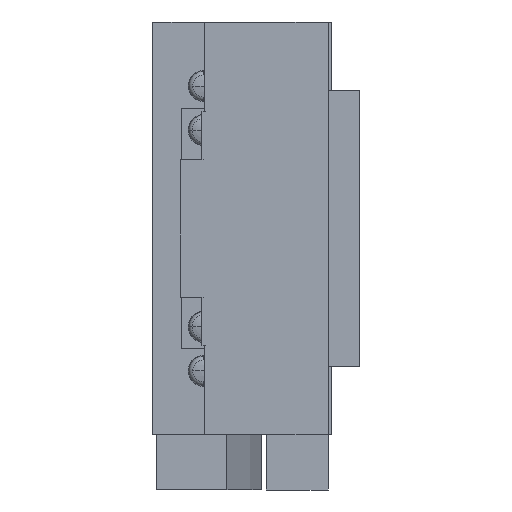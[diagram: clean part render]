
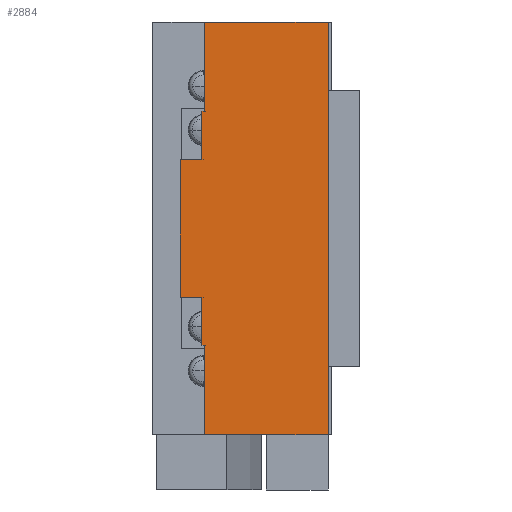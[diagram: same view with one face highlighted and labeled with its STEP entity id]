
A CAD part, left-side view. The second image highlights one B-rep face of the part: STEP entity #2884.
In plain terms, the highlighted planar face has unit normal (-1, 0, 0).
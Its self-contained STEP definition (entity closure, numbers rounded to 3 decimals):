
#40 = CARTESIAN_POINT ( 'NONE',  ( -38., 7.851, -10. ) ) ;
#59 = DIRECTION ( 'NONE',  ( 0., -1., 0. ) ) ;
#136 = CARTESIAN_POINT ( 'NONE',  ( -38., 11., 30. ) ) ;
#202 = LINE ( 'NONE', #205, #1760 ) ;
#205 = CARTESIAN_POINT ( 'NONE',  ( -38., 7.517, 17. ) ) ;
#206 = DIRECTION ( 'NONE',  ( 0., 0., 1. ) ) ;
#226 = LINE ( 'NONE', #136, #1848 ) ;
#240 = DIRECTION ( 'NONE',  ( 0., 0., -1. ) ) ;
#331 = ORIENTED_EDGE ( 'NONE', *, *, #6847, .T. ) ;
#360 = CARTESIAN_POINT ( 'NONE',  ( -38., 11., -10. ) ) ;
#376 = ORIENTED_EDGE ( 'NONE', *, *, #6839, .F. ) ;
#410 = CARTESIAN_POINT ( 'NONE',  ( -38., 7.851, 17. ) ) ;
#421 = ORIENTED_EDGE ( 'NONE', *, *, #6850, .T. ) ;
#441 = CARTESIAN_POINT ( 'NONE',  ( -38., 7.851, 10. ) ) ;
#765 = ORIENTED_EDGE ( 'NONE', *, *, #6903, .F. ) ;
#771 = VERTEX_POINT ( 'NONE', #410 ) ;
#815 = VERTEX_POINT ( 'NONE', #441 ) ;
#836 = VERTEX_POINT ( 'NONE', #360 ) ;
#842 = ORIENTED_EDGE ( 'NONE', *, *, #6729, .T. ) ;
#852 = ORIENTED_EDGE ( 'NONE', *, *, #6667, .T. ) ;
#858 = VERTEX_POINT ( 'NONE', #5747 ) ;
#859 = VERTEX_POINT ( 'NONE', #5366 ) ;
#862 = VERTEX_POINT ( 'NONE', #5650 ) ;
#863 = VERTEX_POINT ( 'NONE', #5756 ) ;
#865 = ORIENTED_EDGE ( 'NONE', *, *, #6889, .F. ) ;
#873 = VERTEX_POINT ( 'NONE', #5307 ) ;
#876 = ORIENTED_EDGE ( 'NONE', *, *, #6723, .T. ) ;
#887 = ORIENTED_EDGE ( 'NONE', *, *, #6873, .F. ) ;
#889 = VERTEX_POINT ( 'NONE', #5511 ) ;
#919 = VERTEX_POINT ( 'NONE', #5550 ) ;
#936 = ORIENTED_EDGE ( 'NONE', *, *, #6817, .F. ) ;
#942 = VERTEX_POINT ( 'NONE', #5620 ) ;
#943 = ORIENTED_EDGE ( 'NONE', *, *, #6746, .F. ) ;
#947 = ORIENTED_EDGE ( 'NONE', *, *, #6820, .T. ) ;
#957 = VERTEX_POINT ( 'NONE', #5478 ) ;
#1560 = AXIS2_PLACEMENT_3D ( 'NONE', #7174, #7124, #7014 ) ;
#1626 = VECTOR ( 'NONE', #3636, 1000. ) ;
#1729 = VECTOR ( 'NONE', #3754, 1000. ) ;
#1734 = VECTOR ( 'NONE', #240, 1000. ) ;
#1760 = VECTOR ( 'NONE', #206, 1000. ) ;
#1848 = VECTOR ( 'NONE', #59, 1000. ) ;
#1851 = VECTOR ( 'NONE', #2896, 1000. ) ;
#1873 = VECTOR ( 'NONE', #4394, 1000. ) ;
#1876 = VECTOR ( 'NONE', #4493, 1000. ) ;
#1885 = VECTOR ( 'NONE', #4385, 1000. ) ;
#1906 = VECTOR ( 'NONE', #4436, 1000. ) ;
#1919 = VECTOR ( 'NONE', #6157, 1000. ) ;
#1947 = VECTOR ( 'NONE', #6016, 1000. ) ;
#2003 = LINE ( 'NONE', #40, #1734 ) ;
#2363 = EDGE_LOOP ( 'NONE', ( #331, #947, #887, #936, #943, #376, #765, #865, #852, #421, #842, #876 ) ) ;
#2884 = ADVANCED_FACE ( 'NONE', ( #7179 ), #7074, .F. ) ;
#2896 = DIRECTION ( 'NONE',  ( 0., -1., 0. ) ) ;
#2901 = LINE ( 'NONE', #2902, #1851 ) ;
#2902 = CARTESIAN_POINT ( 'NONE',  ( -38., 11., -30. ) ) ;
#3564 = LINE ( 'NONE', #3945, #1729 ) ;
#3635 = CARTESIAN_POINT ( 'NONE',  ( -38., 11., 30. ) ) ;
#3636 = DIRECTION ( 'NONE',  ( 0., 0., -1. ) ) ;
#3754 = DIRECTION ( 'NONE',  ( 0., -1., 0. ) ) ;
#3780 = LINE ( 'NONE', #3635, #1626 ) ;
#3945 = CARTESIAN_POINT ( 'NONE',  ( -38., 7.851, -17. ) ) ;
#4352 = LINE ( 'NONE', #4401, #1873 ) ;
#4362 = CARTESIAN_POINT ( 'NONE',  ( -38., -10.5, 30. ) ) ;
#4380 = CARTESIAN_POINT ( 'NONE',  ( -38., 11., -10. ) ) ;
#4385 = DIRECTION ( 'NONE',  ( 0., -1., 0. ) ) ;
#4394 = DIRECTION ( 'NONE',  ( 0., -1., 0. ) ) ;
#4401 = CARTESIAN_POINT ( 'NONE',  ( -38., 7.851, 17. ) ) ;
#4436 = DIRECTION ( 'NONE',  ( 0., 0., -1. ) ) ;
#4479 = CARTESIAN_POINT ( 'NONE',  ( -38., 7.517, -17. ) ) ;
#4493 = DIRECTION ( 'NONE',  ( 0., 0., -1. ) ) ;
#4496 = LINE ( 'NONE', #4362, #1906 ) ;
#4517 = LINE ( 'NONE', #4380, #1885 ) ;
#4536 = LINE ( 'NONE', #4479, #1876 ) ;
#5307 = CARTESIAN_POINT ( 'NONE',  ( -38., 7.517, 30. ) ) ;
#5366 = CARTESIAN_POINT ( 'NONE',  ( -38., 7.851, -10. ) ) ;
#5478 = CARTESIAN_POINT ( 'NONE',  ( -38., 7.851, -17. ) ) ;
#5511 = CARTESIAN_POINT ( 'NONE',  ( -38., 7.517, -30. ) ) ;
#5550 = CARTESIAN_POINT ( 'NONE',  ( -38., -10.5, -30. ) ) ;
#5620 = CARTESIAN_POINT ( 'NONE',  ( -38., -10.5, 30. ) ) ;
#5650 = CARTESIAN_POINT ( 'NONE',  ( -38., 11., 10. ) ) ;
#5747 = CARTESIAN_POINT ( 'NONE',  ( -38., 7.517, 17. ) ) ;
#5756 = CARTESIAN_POINT ( 'NONE',  ( -38., 7.517, -17. ) ) ;
#6010 = CARTESIAN_POINT ( 'NONE',  ( -38., 11., 10. ) ) ;
#6011 = LINE ( 'NONE', #6010, #1919 ) ;
#6015 = LINE ( 'NONE', #6017, #1947 ) ;
#6016 = DIRECTION ( 'NONE',  ( 0., 0., 1. ) ) ;
#6017 = CARTESIAN_POINT ( 'NONE',  ( -38., 7.851, 10. ) ) ;
#6157 = DIRECTION ( 'NONE',  ( 0., -1., 0. ) ) ;
#6667 = EDGE_CURVE ( 'NONE', #862, #836, #3780, .T. ) ;
#6723 = EDGE_CURVE ( 'NONE', #957, #863, #3564, .T. ) ;
#6729 = EDGE_CURVE ( 'NONE', #859, #957, #2003, .T. ) ;
#6746 = EDGE_CURVE ( 'NONE', #858, #873, #202, .T. ) ;
#6817 = EDGE_CURVE ( 'NONE', #873, #942, #226, .T. ) ;
#6820 = EDGE_CURVE ( 'NONE', #889, #919, #2901, .T. ) ;
#6839 = EDGE_CURVE ( 'NONE', #771, #858, #4352, .T. ) ;
#6847 = EDGE_CURVE ( 'NONE', #863, #889, #4536, .T. ) ;
#6850 = EDGE_CURVE ( 'NONE', #836, #859, #4517, .T. ) ;
#6873 = EDGE_CURVE ( 'NONE', #942, #919, #4496, .T. ) ;
#6889 = EDGE_CURVE ( 'NONE', #862, #815, #6011, .T. ) ;
#6903 = EDGE_CURVE ( 'NONE', #815, #771, #6015, .T. ) ;
#7014 = DIRECTION ( 'NONE',  ( 0., 1., 0. ) ) ;
#7074 = PLANE ( 'NONE',  #1560 ) ;
#7124 = DIRECTION ( 'NONE',  ( 1., 0., 0. ) ) ;
#7174 = CARTESIAN_POINT ( 'NONE',  ( -38., 11., 30. ) ) ;
#7179 = FACE_OUTER_BOUND ( 'NONE', #2363, .T. ) ;
